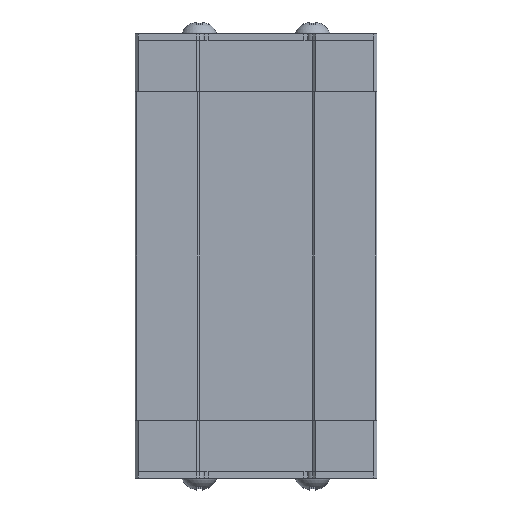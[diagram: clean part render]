
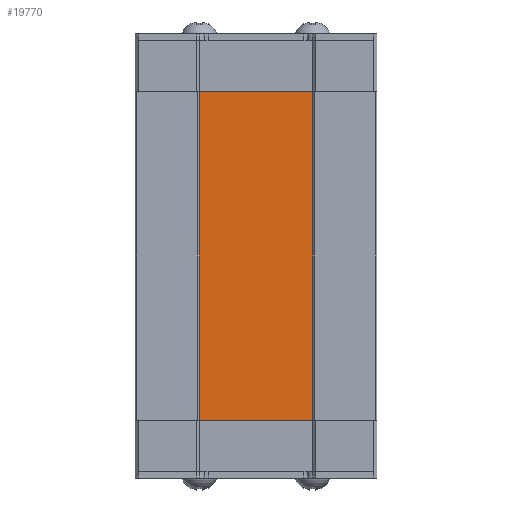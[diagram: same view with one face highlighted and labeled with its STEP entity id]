
A CAD part, front view. The second image highlights one B-rep face of the part: STEP entity #19770.
In plain terms, the highlighted planar face has unit normal (0, -1, 0).
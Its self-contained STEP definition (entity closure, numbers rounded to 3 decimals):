
#18241 = PLANE('',#18242);
#18242 = AXIS2_PLACEMENT_3D('',#18243,#18244,#18245);
#18243 = CARTESIAN_POINT('',(0.,0.,21.7));
#18244 = DIRECTION('',(0.,0.,1.));
#18245 = DIRECTION('',(1.,0.,-0.));
#18407 = VERTEX_POINT('',#18408);
#18408 = CARTESIAN_POINT('',(-7.5,-2.8,21.7));
#18422 = PLANE('',#18423);
#18423 = AXIS2_PLACEMENT_3D('',#18424,#18425,#18426);
#18424 = CARTESIAN_POINT('',(-7.5,0.,13.35));
#18425 = DIRECTION('',(-1.,0.,0.));
#18426 = DIRECTION('',(0.,0.,1.));
#18434 = EDGE_CURVE('',#18435,#18407,#18437,.T.);
#18435 = VERTEX_POINT('',#18436);
#18436 = CARTESIAN_POINT('',(7.5,-2.8,21.7));
#18437 = SURFACE_CURVE('',#18438,(#18442,#18449),.PCURVE_S1.);
#18438 = LINE('',#18439,#18440);
#18439 = CARTESIAN_POINT('',(0.,-2.8,21.7));
#18440 = VECTOR('',#18441,1.);
#18441 = DIRECTION('',(-1.,0.,0.));
#18442 = PCURVE('',#18241,#18443);
#18443 = DEFINITIONAL_REPRESENTATION('',(#18444),#18448);
#18444 = LINE('',#18445,#18446);
#18445 = CARTESIAN_POINT('',(0.,-2.8));
#18446 = VECTOR('',#18447,1.);
#18447 = DIRECTION('',(-1.,0.));
#18448 = ( GEOMETRIC_REPRESENTATION_CONTEXT(2) 
PARAMETRIC_REPRESENTATION_CONTEXT() REPRESENTATION_CONTEXT('2D SPACE',''
  ) );
#18449 = PCURVE('',#18450,#18455);
#18450 = PLANE('',#18451);
#18451 = AXIS2_PLACEMENT_3D('',#18452,#18453,#18454);
#18452 = CARTESIAN_POINT('',(0.,-2.8,13.35));
#18453 = DIRECTION('',(0.,1.,0.));
#18454 = DIRECTION('',(0.,0.,1.));
#18455 = DEFINITIONAL_REPRESENTATION('',(#18456),#18460);
#18456 = LINE('',#18457,#18458);
#18457 = CARTESIAN_POINT('',(8.35,0.));
#18458 = VECTOR('',#18459,1.);
#18459 = DIRECTION('',(0.,-1.));
#18460 = ( GEOMETRIC_REPRESENTATION_CONTEXT(2) 
PARAMETRIC_REPRESENTATION_CONTEXT() REPRESENTATION_CONTEXT('2D SPACE',''
  ) );
#18478 = PLANE('',#18479);
#18479 = AXIS2_PLACEMENT_3D('',#18480,#18481,#18482);
#18480 = CARTESIAN_POINT('',(7.5,0.,13.35));
#18481 = DIRECTION('',(-1.,0.,0.));
#18482 = DIRECTION('',(0.,0.,1.));
#18856 = EDGE_CURVE('',#18435,#18857,#18859,.T.);
#18857 = VERTEX_POINT('',#18858);
#18858 = CARTESIAN_POINT('',(7.5,-2.8,-21.7));
#18859 = SURFACE_CURVE('',#18860,(#18864,#18871),.PCURVE_S1.);
#18860 = LINE('',#18861,#18862);
#18861 = CARTESIAN_POINT('',(7.5,-2.8,13.35));
#18862 = VECTOR('',#18863,1.);
#18863 = DIRECTION('',(0.,0.,-1.));
#18864 = PCURVE('',#18478,#18865);
#18865 = DEFINITIONAL_REPRESENTATION('',(#18866),#18870);
#18866 = LINE('',#18867,#18868);
#18867 = CARTESIAN_POINT('',(0.,-2.8));
#18868 = VECTOR('',#18869,1.);
#18869 = DIRECTION('',(-1.,0.));
#18870 = ( GEOMETRIC_REPRESENTATION_CONTEXT(2) 
PARAMETRIC_REPRESENTATION_CONTEXT() REPRESENTATION_CONTEXT('2D SPACE',''
  ) );
#18871 = PCURVE('',#18450,#18872);
#18872 = DEFINITIONAL_REPRESENTATION('',(#18873),#18877);
#18873 = LINE('',#18874,#18875);
#18874 = CARTESIAN_POINT('',(0.,7.5));
#18875 = VECTOR('',#18876,1.);
#18876 = DIRECTION('',(-1.,0.));
#18877 = ( GEOMETRIC_REPRESENTATION_CONTEXT(2) 
PARAMETRIC_REPRESENTATION_CONTEXT() REPRESENTATION_CONTEXT('2D SPACE',''
  ) );
#18895 = PLANE('',#18896);
#18896 = AXIS2_PLACEMENT_3D('',#18897,#18898,#18899);
#18897 = CARTESIAN_POINT('',(0.,0.,-21.7));
#18898 = DIRECTION('',(0.,0.,-1.));
#18899 = DIRECTION('',(-1.,0.,0.));
#19727 = VERTEX_POINT('',#19728);
#19728 = CARTESIAN_POINT('',(-7.5,-2.8,-21.7));
#19749 = EDGE_CURVE('',#18407,#19727,#19750,.T.);
#19750 = SURFACE_CURVE('',#19751,(#19755,#19762),.PCURVE_S1.);
#19751 = LINE('',#19752,#19753);
#19752 = CARTESIAN_POINT('',(-7.5,-2.8,13.35));
#19753 = VECTOR('',#19754,1.);
#19754 = DIRECTION('',(0.,0.,-1.));
#19755 = PCURVE('',#18422,#19756);
#19756 = DEFINITIONAL_REPRESENTATION('',(#19757),#19761);
#19757 = LINE('',#19758,#19759);
#19758 = CARTESIAN_POINT('',(0.,-2.8));
#19759 = VECTOR('',#19760,1.);
#19760 = DIRECTION('',(-1.,0.));
#19761 = ( GEOMETRIC_REPRESENTATION_CONTEXT(2) 
PARAMETRIC_REPRESENTATION_CONTEXT() REPRESENTATION_CONTEXT('2D SPACE',''
  ) );
#19762 = PCURVE('',#18450,#19763);
#19763 = DEFINITIONAL_REPRESENTATION('',(#19764),#19768);
#19764 = LINE('',#19765,#19766);
#19765 = CARTESIAN_POINT('',(0.,-7.5));
#19766 = VECTOR('',#19767,1.);
#19767 = DIRECTION('',(-1.,0.));
#19768 = ( GEOMETRIC_REPRESENTATION_CONTEXT(2) 
PARAMETRIC_REPRESENTATION_CONTEXT() REPRESENTATION_CONTEXT('2D SPACE',''
  ) );
#19770 = ADVANCED_FACE('',(#19771),#18450,.F.);
#19771 = FACE_BOUND('',#19772,.T.);
#19772 = EDGE_LOOP('',(#19773,#19774,#19795,#19796));
#19773 = ORIENTED_EDGE('',*,*,#19749,.T.);
#19774 = ORIENTED_EDGE('',*,*,#19775,.T.);
#19775 = EDGE_CURVE('',#19727,#18857,#19776,.T.);
#19776 = SURFACE_CURVE('',#19777,(#19781,#19788),.PCURVE_S1.);
#19777 = LINE('',#19778,#19779);
#19778 = CARTESIAN_POINT('',(0.,-2.8,-21.7));
#19779 = VECTOR('',#19780,1.);
#19780 = DIRECTION('',(1.,0.,0.));
#19781 = PCURVE('',#18450,#19782);
#19782 = DEFINITIONAL_REPRESENTATION('',(#19783),#19787);
#19783 = LINE('',#19784,#19785);
#19784 = CARTESIAN_POINT('',(-35.05,0.));
#19785 = VECTOR('',#19786,1.);
#19786 = DIRECTION('',(0.,1.));
#19787 = ( GEOMETRIC_REPRESENTATION_CONTEXT(2) 
PARAMETRIC_REPRESENTATION_CONTEXT() REPRESENTATION_CONTEXT('2D SPACE',''
  ) );
#19788 = PCURVE('',#18895,#19789);
#19789 = DEFINITIONAL_REPRESENTATION('',(#19790),#19794);
#19790 = LINE('',#19791,#19792);
#19791 = CARTESIAN_POINT('',(0.,-2.8));
#19792 = VECTOR('',#19793,1.);
#19793 = DIRECTION('',(-1.,0.));
#19794 = ( GEOMETRIC_REPRESENTATION_CONTEXT(2) 
PARAMETRIC_REPRESENTATION_CONTEXT() REPRESENTATION_CONTEXT('2D SPACE',''
  ) );
#19795 = ORIENTED_EDGE('',*,*,#18856,.F.);
#19796 = ORIENTED_EDGE('',*,*,#18434,.T.);
